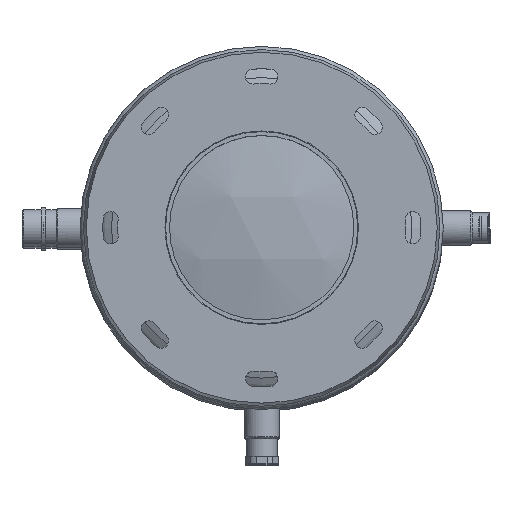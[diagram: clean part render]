
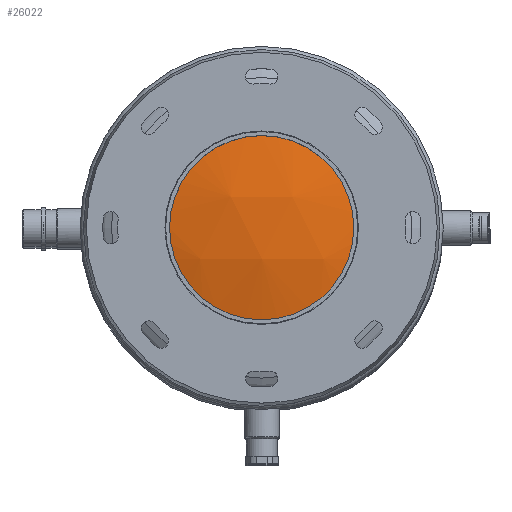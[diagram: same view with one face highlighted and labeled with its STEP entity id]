
A CAD part, top view. The second image highlights one B-rep face of the part: STEP entity #26022.
In plain terms, the highlighted spherical face has radius 419.7 mm.
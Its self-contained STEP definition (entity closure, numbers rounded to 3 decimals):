
#600=SPHERICAL_SURFACE('',#28085,419.7);
#1831=CIRCLE('',#28063,105.05);
#4248=FACE_OUTER_BOUND('',#5813,.T.);
#5813=EDGE_LOOP('',(#24062));
#12517=VERTEX_POINT('',#62307);
#16361=EDGE_CURVE('',#12517,#12517,#1831,.T.);
#24062=ORIENTED_EDGE('',*,*,#16361,.T.);
#26022=ADVANCED_FACE('',(#4248),#600,.T.);
#28063=AXIS2_PLACEMENT_3D('',#62308,#33812,#33813);
#28085=AXIS2_PLACEMENT_3D('',#62345,#33860,#33861);
#33812=DIRECTION('center_axis',(0.,0.,1.));
#33813=DIRECTION('ref_axis',(1.,0.,0.));
#33860=DIRECTION('center_axis',(0.,1.,0.));
#33861=DIRECTION('ref_axis',(-1.,0.,0.));
#62307=CARTESIAN_POINT('',(-105.05,0.,126.422));
#62308=CARTESIAN_POINT('Origin',(0.,0.,126.422));
#62345=CARTESIAN_POINT('Origin',(0.,0.,-279.919));
